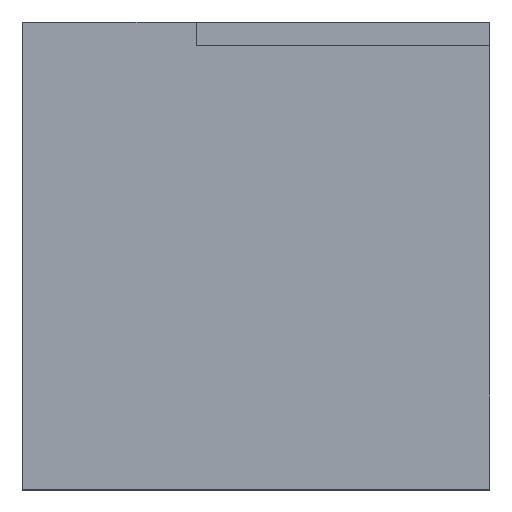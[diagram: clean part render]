
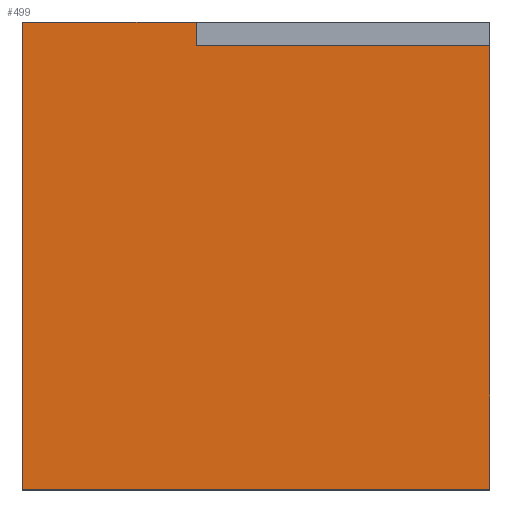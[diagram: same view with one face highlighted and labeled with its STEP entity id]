
A CAD part, top view. The second image highlights one B-rep face of the part: STEP entity #499.
In plain terms, the highlighted planar face has unit normal (0, 0, 1).
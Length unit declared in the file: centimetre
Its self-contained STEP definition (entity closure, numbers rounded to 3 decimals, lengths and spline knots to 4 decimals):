
#6 = EDGE_LOOP ( 'NONE', ( #359, #697, #606, #550, #252, #17 ) ) ;
#13 = EDGE_CURVE ( 'NONE', #65, #88, #369, .T. ) ;
#16 = EDGE_CURVE ( 'NONE', #302, #363, #419, .T. ) ;
#17 = ORIENTED_EDGE ( 'NONE', *, *, #16, .T. ) ;
#41 = CARTESIAN_POINT ( 'NONE',  ( 0., 0., 1000. ) ) ;
#65 = VERTEX_POINT ( 'NONE', #147 ) ;
#68 = CARTESIAN_POINT ( 'NONE',  ( 1000., 950.1119, 1000. ) ) ;
#81 = CARTESIAN_POINT ( 'NONE',  ( 372.2354, 950.1119, 1000. ) ) ;
#83 = LINE ( 'NONE', #581, #530 ) ;
#88 = VERTEX_POINT ( 'NONE', #428 ) ;
#91 = PLANE ( 'NONE',  #576 ) ;
#96 = DIRECTION ( 'NONE',  ( 1., 0., 0. ) ) ;
#124 = LINE ( 'NONE', #349, #435 ) ;
#142 = LINE ( 'NONE', #81, #520 ) ;
#147 = CARTESIAN_POINT ( 'NONE',  ( 372.2354, 1000., 1000. ) ) ;
#160 = EDGE_CURVE ( 'NONE', #522, #302, #83, .T. ) ;
#210 = DIRECTION ( 'NONE',  ( 0., 1., 0. ) ) ;
#252 = ORIENTED_EDGE ( 'NONE', *, *, #160, .T. ) ;
#260 = DIRECTION ( 'NONE',  ( 0., -1., 0. ) ) ;
#277 = CARTESIAN_POINT ( 'NONE',  ( 1000., 0., 1000. ) ) ;
#279 = CARTESIAN_POINT ( 'NONE',  ( 0., 1000., 1000. ) ) ;
#302 = VERTEX_POINT ( 'NONE', #277 ) ;
#308 = CARTESIAN_POINT ( 'NONE',  ( 0., 0., 1000. ) ) ;
#331 = EDGE_CURVE ( 'NONE', #446, #522, #333, .T. ) ;
#333 = LINE ( 'NONE', #279, #687 ) ;
#349 = CARTESIAN_POINT ( 'NONE',  ( 0., 1000., 1000. ) ) ;
#359 = ORIENTED_EDGE ( 'NONE', *, *, #547, .F. ) ;
#363 = VERTEX_POINT ( 'NONE', #68 ) ;
#369 = LINE ( 'NONE', #480, #575 ) ;
#419 = LINE ( 'NONE', #423, #508 ) ;
#423 = CARTESIAN_POINT ( 'NONE',  ( 1000., 1000., 1000. ) ) ;
#428 = CARTESIAN_POINT ( 'NONE',  ( 372.2354, 950.1119, 1000. ) ) ;
#435 = VECTOR ( 'NONE', #552, 100. ) ;
#446 = VERTEX_POINT ( 'NONE', #605 ) ;
#469 = EDGE_CURVE ( 'NONE', #65, #446, #124, .T. ) ;
#472 = DIRECTION ( 'NONE',  ( 1., 0., 0. ) ) ;
#477 = DIRECTION ( 'NONE',  ( 0., 0., 1. ) ) ;
#480 = CARTESIAN_POINT ( 'NONE',  ( 372.2354, 950.1119, 1000. ) ) ;
#499 = ADVANCED_FACE ( 'NONE', ( #572 ), #91, .T. ) ;
#508 = VECTOR ( 'NONE', #210, 100. ) ;
#520 = VECTOR ( 'NONE', #472, 100. ) ;
#522 = VERTEX_POINT ( 'NONE', #41 ) ;
#530 = VECTOR ( 'NONE', #96, 100. ) ;
#547 = EDGE_CURVE ( 'NONE', #88, #363, #142, .T. ) ;
#550 = ORIENTED_EDGE ( 'NONE', *, *, #331, .T. ) ;
#552 = DIRECTION ( 'NONE',  ( -1., 0., 0. ) ) ;
#567 = DIRECTION ( 'NONE',  ( 1., 0., 0. ) ) ;
#572 = FACE_OUTER_BOUND ( 'NONE', #6, .T. ) ;
#575 = VECTOR ( 'NONE', #260, 100. ) ;
#576 = AXIS2_PLACEMENT_3D ( 'NONE', #308, #477, #567 ) ;
#581 = CARTESIAN_POINT ( 'NONE',  ( 0., 0., 1000. ) ) ;
#605 = CARTESIAN_POINT ( 'NONE',  ( 0., 1000., 1000. ) ) ;
#606 = ORIENTED_EDGE ( 'NONE', *, *, #469, .T. ) ;
#615 = DIRECTION ( 'NONE',  ( 0., -1., 0. ) ) ;
#687 = VECTOR ( 'NONE', #615, 100. ) ;
#697 = ORIENTED_EDGE ( 'NONE', *, *, #13, .F. ) ;
